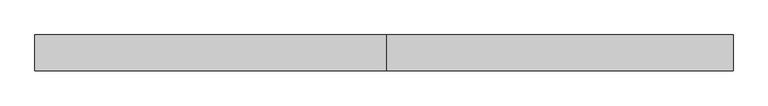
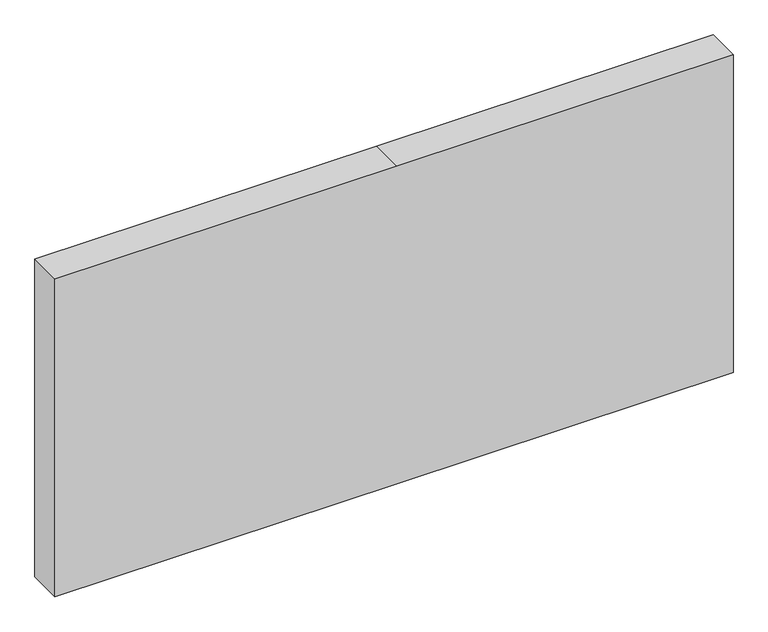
"""IFC4 building model written with IfcOpenShell, lengths in millimetres: plate geometry, Системная панель : Алюкобонд красный."""

from ifc_helpers import new_model, si_unit, frame, origin, place, context, project, spatial, polyline, outline, extrude, source, transform, mapped, element, save


def plate_3a01aa08(model_context):
    return source(origin(), model_context, "Body", "SweptSolid", [
        extrude(outline(polyline([(0.0, -585.0), (0.0, 5.0), (0.0, 585.0), (580.0, 585.0), (580.0, 5.0), (580.0, -585.0), (0.0, -585.0)])), frame((0.0, -10.5, 0.0), z_axis=(0.0, 1.0, 0.0), x_axis=(0.0, 0.0, 1.0)), (0.0, 0.0, 1.0), 60.0),
    ])


if __name__ == "__main__":
    model = new_model("IFC4")
    model_context = context("Model", 3, world=origin())
    ifc_project = project(units=[si_unit("LENGTHUNIT", "METRE", prefix="MILLI")], contexts=[model_context])
    site = spatial("IfcSite", under=ifc_project)
    building = spatial("IfcBuilding", under=site)
    placement = place(None, origin())
    plate_shape = plate_3a01aa08(model_context)
    element("IfcPlate", 1, ObjectType="Системная панель : Алюкобонд красный", at=placement, inside=building, context=model_context, shape_type="MappedRepresentation", body=[
        mapped(plate_shape, transform((0.0, 0.0, 0.0), x_axis=(1.0, 0.0, 0.0), y_axis=(0.0, 1.0, 0.0), z_axis=(0.0, 0.0, 1.0))),
    ])
    save(model, "model.ifc")
